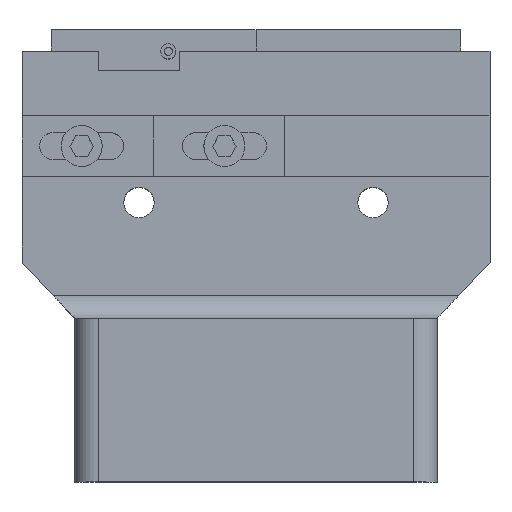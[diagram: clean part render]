
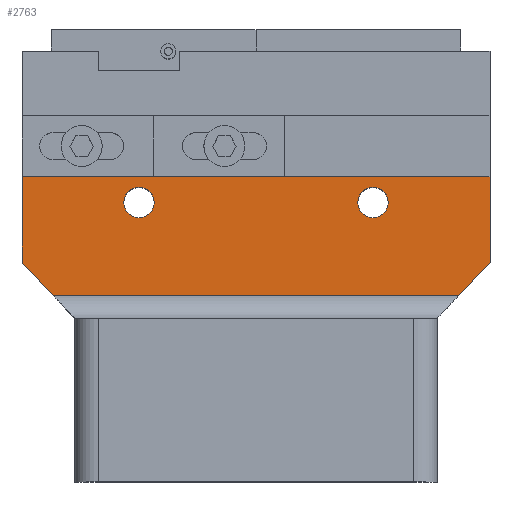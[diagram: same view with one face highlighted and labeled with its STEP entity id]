
A CAD part, top view. The second image highlights one B-rep face of the part: STEP entity #2763.
In plain terms, the highlighted planar face has unit normal (0, 0, 1) as drawn and (0, -1, 0) by its records, which use the part's own axes.
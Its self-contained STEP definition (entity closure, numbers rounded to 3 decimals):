
#75 = CARTESIAN_POINT ( 'NONE',  ( 6.49, -0.464, 23.406 ) ) ;
#110 = DIRECTION ( 'NONE',  ( 0., -1., 0. ) ) ;
#140 = VERTEX_POINT ( 'NONE', #2234 ) ;
#186 = LINE ( 'NONE', #4443, #4836 ) ;
#341 = CARTESIAN_POINT ( 'NONE',  ( -44.31, -0.464, 19.786 ) ) ;
#366 = VECTOR ( 'NONE', #6488, 1000. ) ;
#379 = LINE ( 'NONE', #5557, #567 ) ;
#425 = VERTEX_POINT ( 'NONE', #4684 ) ;
#450 = VERTEX_POINT ( 'NONE', #1289 ) ;
#481 = EDGE_CURVE ( 'NONE', #450, #7121, #1889, .T. ) ;
#567 = VECTOR ( 'NONE', #1282, 1000. ) ;
#641 = EDGE_LOOP ( 'NONE', ( #6344, #2972 ) ) ;
#724 = CARTESIAN_POINT ( 'NONE',  ( -6.21, -0.464, 31.534 ) ) ;
#898 = VECTOR ( 'NONE', #1541, 1000. ) ;
#911 = CARTESIAN_POINT ( 'NONE',  ( -44.31, -0.464, 23.406 ) ) ;
#937 = DIRECTION ( 'NONE',  ( 0., 0., 1. ) ) ;
#998 = VERTEX_POINT ( 'NONE', #3354 ) ;
#1151 = VECTOR ( 'NONE', #7666, 1000. ) ;
#1272 = AXIS2_PLACEMENT_3D ( 'NONE', #911, #4561, #937 ) ;
#1282 = DIRECTION ( 'NONE',  ( 0., 0., 1. ) ) ;
#1289 = CARTESIAN_POINT ( 'NONE',  ( -31.61, -0.464, 31.534 ) ) ;
#1403 = AXIS2_PLACEMENT_3D ( 'NONE', #3262, #5507, #7502 ) ;
#1475 = DIRECTION ( 'NONE',  ( 0.684, 0., 0.73 ) ) ;
#1541 = DIRECTION ( 'NONE',  ( 0., 0., 1. ) ) ;
#1561 = LINE ( 'NONE', #2691, #1151 ) ;
#1670 = VERTEX_POINT ( 'NONE', #3968 ) ;
#1750 = VERTEX_POINT ( 'NONE', #3602 ) ;
#1836 = AXIS2_PLACEMENT_3D ( 'NONE', #3762, #110, #4375 ) ;
#1841 = CIRCLE ( 'NONE', #2232, 1.651 ) ;
#1865 = VERTEX_POINT ( 'NONE', #75 ) ;
#1889 = CIRCLE ( 'NONE', #1403, 1.651 ) ;
#1992 = FACE_OUTER_BOUND ( 'NONE', #6641, .T. ) ;
#2232 = AXIS2_PLACEMENT_3D ( 'NONE', #2635, #7007, #3249 ) ;
#2234 = CARTESIAN_POINT ( 'NONE',  ( -40.917, -0.464, 19.786 ) ) ;
#2472 = ORIENTED_EDGE ( 'NONE', *, *, #5259, .F. ) ;
#2546 = ORIENTED_EDGE ( 'NONE', *, *, #481, .F. ) ;
#2569 = EDGE_CURVE ( 'NONE', #7121, #450, #3327, .T. ) ;
#2635 = CARTESIAN_POINT ( 'NONE',  ( -6.21, -0.464, 29.883 ) ) ;
#2667 = ORIENTED_EDGE ( 'NONE', *, *, #2790, .T. ) ;
#2691 = CARTESIAN_POINT ( 'NONE',  ( -44.31, -0.464, 32.677 ) ) ;
#2763 = ADVANCED_FACE ( 'NONE', ( #3779, #3584, #1992 ), #3943, .F. ) ;
#2790 = EDGE_CURVE ( 'NONE', #140, #3660, #5026, .T. ) ;
#2833 = ORIENTED_EDGE ( 'NONE', *, *, #2569, .F. ) ;
#2972 = ORIENTED_EDGE ( 'NONE', *, *, #7407, .F. ) ;
#3249 = DIRECTION ( 'NONE',  ( 0., 0., 1. ) ) ;
#3262 = CARTESIAN_POINT ( 'NONE',  ( -31.61, -0.464, 29.883 ) ) ;
#3327 = CIRCLE ( 'NONE', #1836, 1.651 ) ;
#3354 = CARTESIAN_POINT ( 'NONE',  ( -6.21, -0.464, 28.232 ) ) ;
#3369 = CIRCLE ( 'NONE', #4397, 1.651 ) ;
#3584 = FACE_BOUND ( 'NONE', #641, .T. ) ;
#3602 = CARTESIAN_POINT ( 'NONE',  ( -44.31, -0.464, 32.677 ) ) ;
#3625 = DIRECTION ( 'NONE',  ( 0., -1., 0. ) ) ;
#3660 = VERTEX_POINT ( 'NONE', #3836 ) ;
#3762 = CARTESIAN_POINT ( 'NONE',  ( -31.61, -0.464, 29.883 ) ) ;
#3779 = FACE_BOUND ( 'NONE', #6510, .T. ) ;
#3836 = CARTESIAN_POINT ( 'NONE',  ( 3.097, -0.464, 19.787 ) ) ;
#3943 = PLANE ( 'NONE',  #1272 ) ;
#3968 = CARTESIAN_POINT ( 'NONE',  ( 6.49, -0.464, 32.677 ) ) ;
#4024 = ORIENTED_EDGE ( 'NONE', *, *, #7075, .F. ) ;
#4076 = VECTOR ( 'NONE', #6061, 1000. ) ;
#4353 = ORIENTED_EDGE ( 'NONE', *, *, #5895, .T. ) ;
#4375 = DIRECTION ( 'NONE',  ( 0., 0., 1. ) ) ;
#4397 = AXIS2_PLACEMENT_3D ( 'NONE', #7396, #3625, #8021 ) ;
#4443 = CARTESIAN_POINT ( 'NONE',  ( 6.49, -0.464, 23.406 ) ) ;
#4561 = DIRECTION ( 'NONE',  ( 0., 1., 0. ) ) ;
#4658 = EDGE_CURVE ( 'NONE', #3660, #1865, #186, .T. ) ;
#4684 = CARTESIAN_POINT ( 'NONE',  ( -44.31, -0.464, 23.406 ) ) ;
#4836 = VECTOR ( 'NONE', #1475, 1000. ) ;
#5026 = LINE ( 'NONE', #341, #366 ) ;
#5259 = EDGE_CURVE ( 'NONE', #1750, #1670, #1561, .T. ) ;
#5507 = DIRECTION ( 'NONE',  ( 0., -1., 0. ) ) ;
#5554 = EDGE_CURVE ( 'NONE', #425, #140, #7448, .T. ) ;
#5557 = CARTESIAN_POINT ( 'NONE',  ( 6.49, -0.464, 34.836 ) ) ;
#5895 = EDGE_CURVE ( 'NONE', #1865, #1670, #379, .T. ) ;
#6061 = DIRECTION ( 'NONE',  ( 0.684, 0., -0.73 ) ) ;
#6209 = ORIENTED_EDGE ( 'NONE', *, *, #4658, .T. ) ;
#6344 = ORIENTED_EDGE ( 'NONE', *, *, #7194, .F. ) ;
#6488 = DIRECTION ( 'NONE',  ( 1., 0., 0. ) ) ;
#6510 = EDGE_LOOP ( 'NONE', ( #2546, #2833 ) ) ;
#6641 = EDGE_LOOP ( 'NONE', ( #4353, #2472, #4024, #8059, #2667, #6209 ) ) ;
#7007 = DIRECTION ( 'NONE',  ( 0., -1., 0. ) ) ;
#7075 = EDGE_CURVE ( 'NONE', #425, #1750, #7483, .T. ) ;
#7121 = VERTEX_POINT ( 'NONE', #7759 ) ;
#7194 = EDGE_CURVE ( 'NONE', #7924, #998, #3369, .T. ) ;
#7308 = CARTESIAN_POINT ( 'NONE',  ( -44.31, -0.464, 23.406 ) ) ;
#7396 = CARTESIAN_POINT ( 'NONE',  ( -6.21, -0.464, 29.883 ) ) ;
#7407 = EDGE_CURVE ( 'NONE', #998, #7924, #1841, .T. ) ;
#7448 = LINE ( 'NONE', #7308, #4076 ) ;
#7483 = LINE ( 'NONE', #7708, #898 ) ;
#7502 = DIRECTION ( 'NONE',  ( 0., 0., 1. ) ) ;
#7666 = DIRECTION ( 'NONE',  ( 1., 0., 0. ) ) ;
#7708 = CARTESIAN_POINT ( 'NONE',  ( -44.31, -0.464, 23.406 ) ) ;
#7759 = CARTESIAN_POINT ( 'NONE',  ( -31.61, -0.464, 28.232 ) ) ;
#7924 = VERTEX_POINT ( 'NONE', #724 ) ;
#8021 = DIRECTION ( 'NONE',  ( 0., 0., 1. ) ) ;
#8059 = ORIENTED_EDGE ( 'NONE', *, *, #5554, .T. ) ;
